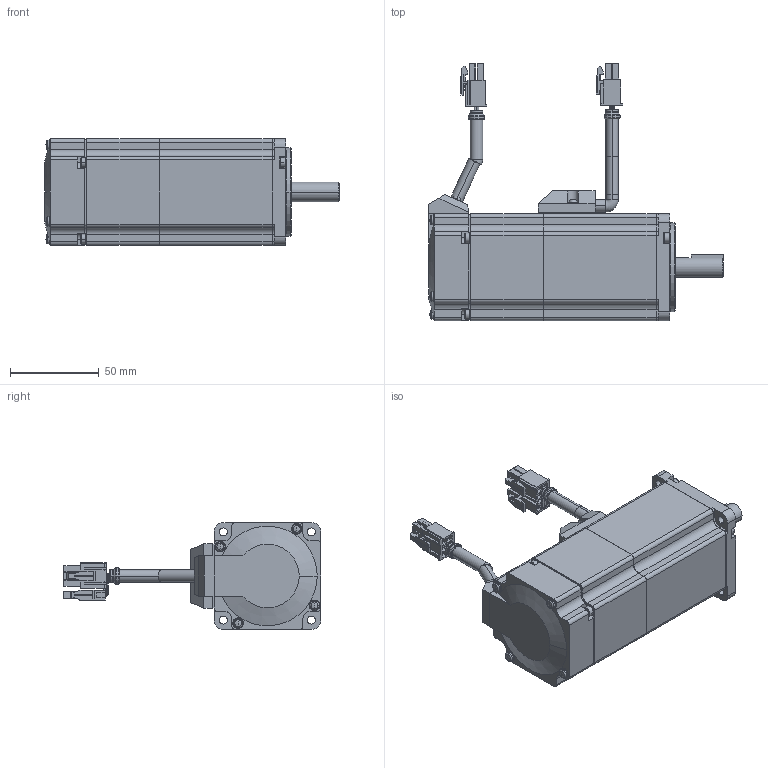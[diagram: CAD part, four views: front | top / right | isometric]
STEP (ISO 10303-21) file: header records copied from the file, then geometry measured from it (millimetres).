
FILE_DESCRIPTION( ( '' ), '1' );
FILE_NAME( '//expscmdclustefs.cadenas.external/client_exchange/iodir/jobs/output/wkb64909867_no0/STEP/MHMD022G1VA_2_03.stp', '2013-10-30T14:21:01', ( '' ), ( '' ), ' ', ' ', ' ' );
FILE_SCHEMA( ( 'CONFIG_CONTROL_DESIGN' ) );
Length unit declared in the file: millimetre
Products named in the file (8): 1; 2; 3; 4; 5; 6; 7; 8
Bounding box: 165.5 x 144.8 x 60 mm (x, y, z)
Volume: 466089.6 mm3; surface area: 56962.7 mm2
Topology: 8 solids, 8 shells, 1030 faces, 2652 edges, 1729 vertices
Faces by surface type: plane 656, cylinder 270, cone 54, torus 42, sphere 8
Entity records: 31715 total; most frequent: CARTESIAN_POINT 5579, DIRECTION 5455, ORIENTED_EDGE 5300, EDGE_CURVE 2650, LINE 1885, VECTOR 1885, AXIS2_PLACEMENT_3D 1785, VERTEX_POINT 1729
